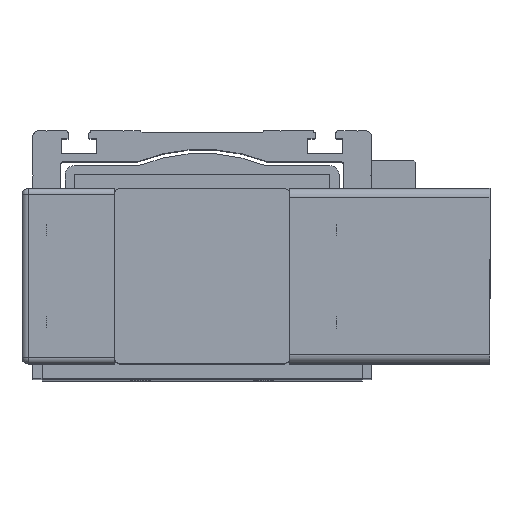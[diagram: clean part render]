
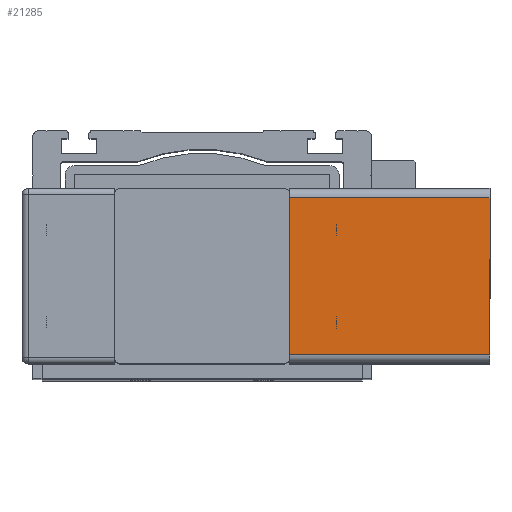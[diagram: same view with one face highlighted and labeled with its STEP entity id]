
A CAD part, top view. The second image highlights one B-rep face of the part: STEP entity #21285.
In plain terms, the highlighted planar face has unit normal (0, 0, 1) as drawn and (-1, 0, 0) by its records, which use the part's own axes.
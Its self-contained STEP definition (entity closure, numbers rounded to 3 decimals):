
#21019=CARTESIAN_POINT('',(0.0,54.0,0.0));
#21020=VERTEX_POINT('',#21019);
#21028=CARTESIAN_POINT('',(0.0,3.,0.0));
#21029=VERTEX_POINT('',#21028);
#21030=CARTESIAN_POINT('',(0.0,54.0,0.0));
#21031=DIRECTION('',(0.0,-1.0,0.0));
#21032=VECTOR('',#21031,51.0);
#21033=LINE('',#21030,#21032);
#21034=EDGE_CURVE('',#21020,#21029,#21033,.T.);
#21168=CARTESIAN_POINT('',(0.0,3.,-65.0));
#21169=VERTEX_POINT('',#21168);
#21186=CARTESIAN_POINT('',(0.0,3.,0.0));
#21187=DIRECTION('',(0.0,0.0,-1.0));
#21188=VECTOR('',#21187,65.0);
#21189=LINE('',#21186,#21188);
#21190=EDGE_CURVE('',#21029,#21169,#21189,.T.);
#21244=CARTESIAN_POINT('',(0.0,54.0,-65.0));
#21245=VERTEX_POINT('',#21244);
#21253=CARTESIAN_POINT('',(0.0,54.0,-65.0));
#21254=DIRECTION('',(0.0,0.0,1.0));
#21255=VECTOR('',#21254,65.0);
#21256=LINE('',#21253,#21255);
#21257=EDGE_CURVE('',#21245,#21020,#21256,.T.);
#21269=CARTESIAN_POINT('',(0.0,57.0,0.0));
#21270=DIRECTION('',(-1.0,0.0,0.0));
#21271=DIRECTION('',(0.0,0.0,1.0));
#21272=AXIS2_PLACEMENT_3D('',#21269,#21270,#21271);
#21273=PLANE('',#21272);
#21274=ORIENTED_EDGE('',*,*,#21190,.F.);
#21275=ORIENTED_EDGE('',*,*,#21034,.F.);
#21276=ORIENTED_EDGE('',*,*,#21257,.F.);
#21277=CARTESIAN_POINT('',(0.0,54.0,-65.0));
#21278=DIRECTION('',(0.0,-1.0,0.0));
#21279=VECTOR('',#21278,51.0);
#21280=LINE('',#21277,#21279);
#21281=EDGE_CURVE('',#21245,#21169,#21280,.T.);
#21282=ORIENTED_EDGE('',*,*,#21281,.T.);
#21283=EDGE_LOOP('',(#21274,#21275,#21276,#21282));
#21284=FACE_OUTER_BOUND('',#21283,.T.);
#21285=ADVANCED_FACE('',(#21284),#21273,.T.);
